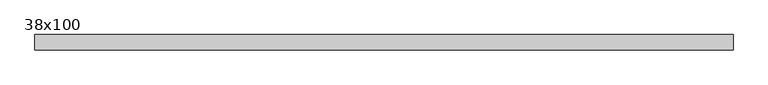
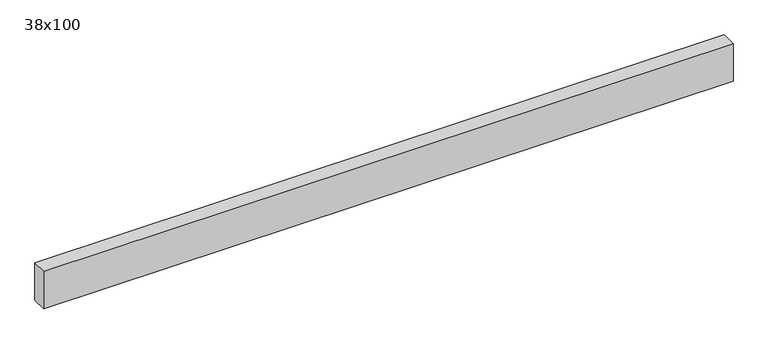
"""IFC4 building model written with IfcOpenShell, lengths in millimetres: beam geometry, Poutre - Bois de construction de dimensions courantes : 38x100."""

from ifc_helpers import new_model, si_unit, frame, origin, place, context, project, spatial, polyline, outline, extrude, source, transform, mapped, element, save


def beam_38x100_7e35cd69(model_context):
    return source(origin(), model_context, "Body", "SweptSolid", [
        extrude(outline(polyline([(870.5, 19.05), (870.5, -19.05), (-870.5, -19.05), (-870.5, 19.05), (870.5, 19.05)])), frame((0.0, 0.0, -50.0), z_axis=(0.0, 0.0, 1.0), x_axis=(1.0, 0.0, 0.0)), (0.0, 0.0, 1.0), 100.0),
    ])


if __name__ == "__main__":
    model = new_model("IFC4")
    model_context = context("Model", 3, world=origin())
    ifc_project = project(units=[si_unit("LENGTHUNIT", "METRE", prefix="MILLI")], contexts=[model_context])
    site = spatial("IfcSite", under=ifc_project)
    building = spatial("IfcBuilding", under=site)
    placement = place(None, origin())
    beam_38x100_shape = beam_38x100_7e35cd69(model_context)
    element("IfcBeam", 1, ObjectType="Poutre - Bois de construction de dimensions courantes : 38x100", at=placement, inside=building, context=model_context, shape_type="MappedRepresentation", body=[
        mapped(beam_38x100_shape, transform((0.0, 0.0, 0.0), x_axis=(1.0, 0.0, 0.0), y_axis=(0.0, 1.0, 0.0), z_axis=(0.0, 0.0, 1.0))),
    ])
    save(model, "model.ifc")
